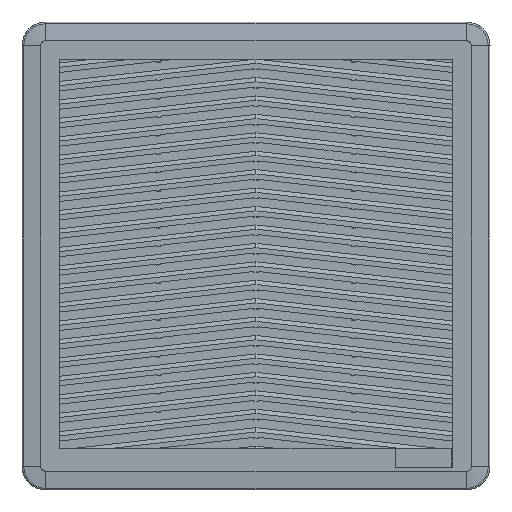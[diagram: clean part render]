
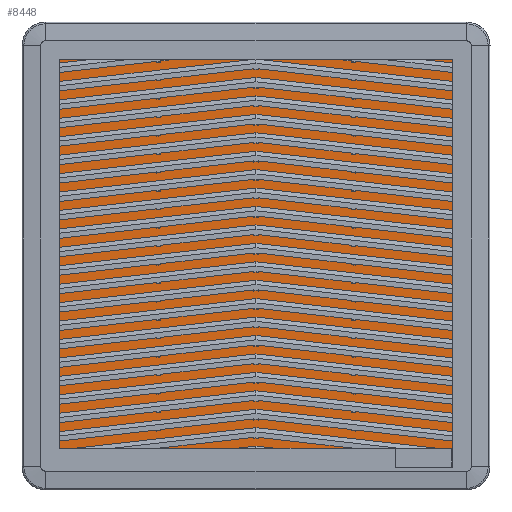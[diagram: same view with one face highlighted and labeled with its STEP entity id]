
A CAD part, front view. The second image highlights one B-rep face of the part: STEP entity #8448.
In plain terms, the highlighted planar face has unit normal (0, -1, 0) as drawn and (0, 0, 1) by its records, which use the part's own axes.
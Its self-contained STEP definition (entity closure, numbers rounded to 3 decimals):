
#560 = VERTEX_POINT ( 'NONE', #10020 ) ;
#562 = CARTESIAN_POINT ( 'NONE',  ( -111.96, -112.04, 6.009 ) ) ;
#1248 = CARTESIAN_POINT ( 'NONE',  ( 112.04, -122.54, 6.009 ) ) ;
#1703 = VECTOR ( 'NONE', #9367, 1000. ) ;
#1813 = FACE_OUTER_BOUND ( 'NONE', #3142, .T. ) ;
#2353 = DIRECTION ( 'NONE',  ( -1., 0., 0. ) ) ;
#2399 = VECTOR ( 'NONE', #38667, 1000. ) ;
#2628 = VERTEX_POINT ( 'NONE', #18523 ) ;
#3142 = EDGE_LOOP ( 'NONE', ( #29320, #32157, #7477, #4887, #25000, #16422, #35902, #35432 ) ) ;
#3151 = EDGE_CURVE ( 'NONE', #560, #5388, #4837, .T. ) ;
#3314 = CARTESIAN_POINT ( 'NONE',  ( -122.46, -112.04, 6.009 ) ) ;
#4056 = CIRCLE ( 'NONE', #9665, 10.5 ) ;
#4317 = VERTEX_POINT ( 'NONE', #18207 ) ;
#4348 = CARTESIAN_POINT ( 'NONE',  ( -111.96, -122.54, 6.009 ) ) ;
#4555 = CARTESIAN_POINT ( 'NONE',  ( 0.04, -0.04, 6.009 ) ) ;
#4837 = CIRCLE ( 'NONE', #37438, 10.5 ) ;
#4887 = ORIENTED_EDGE ( 'NONE', *, *, #36228, .F. ) ;
#5388 = VERTEX_POINT ( 'NONE', #32663 ) ;
#5430 = AXIS2_PLACEMENT_3D ( 'NONE', #13156, #25148, #36350 ) ;
#7477 = ORIENTED_EDGE ( 'NONE', *, *, #27996, .F. ) ;
#8025 = DIRECTION ( 'NONE',  ( 1., 0., 0. ) ) ;
#8387 = DIRECTION ( 'NONE',  ( 0., 0., -1. ) ) ;
#8448 = ADVANCED_FACE ( 'NONE', ( #1813 ), #19652, .T. ) ;
#9367 = DIRECTION ( 'NONE',  ( 0., -1., 0. ) ) ;
#9665 = AXIS2_PLACEMENT_3D ( 'NONE', #562, #24514, #12702 ) ;
#10020 = CARTESIAN_POINT ( 'NONE',  ( 112.04, 124.96, 6.009 ) ) ;
#10368 = AXIS2_PLACEMENT_3D ( 'NONE', #25333, #13735, #10396 ) ;
#10396 = DIRECTION ( 'NONE',  ( 1., 0., 0. ) ) ;
#11339 = CARTESIAN_POINT ( 'NONE',  ( 112.04, 114.46, 6.009 ) ) ;
#12702 = DIRECTION ( 'NONE',  ( 1., 0., 0. ) ) ;
#13156 = CARTESIAN_POINT ( 'NONE',  ( 112.04, -112.04, 6.009 ) ) ;
#13735 = DIRECTION ( 'NONE',  ( 0., 0., -1. ) ) ;
#16027 = CIRCLE ( 'NONE', #10368, 10.5 ) ;
#16422 = ORIENTED_EDGE ( 'NONE', *, *, #36347, .F. ) ;
#16498 = CARTESIAN_POINT ( 'NONE',  ( -122.46, 114.46, 6.009 ) ) ;
#17438 = LINE ( 'NONE', #35139, #28643 ) ;
#17805 = LINE ( 'NONE', #38854, #23488 ) ;
#18207 = CARTESIAN_POINT ( 'NONE',  ( -122.46, -112.04, 6.009 ) ) ;
#18324 = EDGE_CURVE ( 'NONE', #2628, #30917, #22362, .T. ) ;
#18523 = CARTESIAN_POINT ( 'NONE',  ( 122.54, -112.04, 6.009 ) ) ;
#19462 = AXIS2_PLACEMENT_3D ( 'NONE', #4555, #24779, #27903 ) ;
#19652 = PLANE ( 'NONE',  #19462 ) ;
#22362 = CIRCLE ( 'NONE', #5430, 10.5 ) ;
#23354 = DIRECTION ( 'NONE',  ( 1., 0., 0. ) ) ;
#23488 = VECTOR ( 'NONE', #23354, 1000. ) ;
#23773 = VERTEX_POINT ( 'NONE', #34232 ) ;
#24514 = DIRECTION ( 'NONE',  ( 0., 0., -1. ) ) ;
#24779 = DIRECTION ( 'NONE',  ( 0., 0., 1. ) ) ;
#25000 = ORIENTED_EDGE ( 'NONE', *, *, #18324, .F. ) ;
#25148 = DIRECTION ( 'NONE',  ( 0., 0., -1. ) ) ;
#25333 = CARTESIAN_POINT ( 'NONE',  ( -111.96, 114.46, 6.009 ) ) ;
#27793 = EDGE_CURVE ( 'NONE', #23773, #560, #17805, .T. ) ;
#27903 = DIRECTION ( 'NONE',  ( 1., 0., 0. ) ) ;
#27996 = EDGE_CURVE ( 'NONE', #32242, #4317, #4056, .T. ) ;
#28643 = VECTOR ( 'NONE', #2353, 1000. ) ;
#29320 = ORIENTED_EDGE ( 'NONE', *, *, #37139, .F. ) ;
#30016 = LINE ( 'NONE', #36092, #1703 ) ;
#30917 = VERTEX_POINT ( 'NONE', #1248 ) ;
#31552 = EDGE_CURVE ( 'NONE', #4317, #32238, #36310, .T. ) ;
#32157 = ORIENTED_EDGE ( 'NONE', *, *, #31552, .F. ) ;
#32238 = VERTEX_POINT ( 'NONE', #16498 ) ;
#32242 = VERTEX_POINT ( 'NONE', #4348 ) ;
#32663 = CARTESIAN_POINT ( 'NONE',  ( 122.54, 114.46, 6.009 ) ) ;
#34232 = CARTESIAN_POINT ( 'NONE',  ( -111.96, 124.96, 6.009 ) ) ;
#35139 = CARTESIAN_POINT ( 'NONE',  ( 112.04, -122.54, 6.009 ) ) ;
#35432 = ORIENTED_EDGE ( 'NONE', *, *, #27793, .F. ) ;
#35902 = ORIENTED_EDGE ( 'NONE', *, *, #3151, .F. ) ;
#36092 = CARTESIAN_POINT ( 'NONE',  ( 122.54, -112.04, 6.009 ) ) ;
#36228 = EDGE_CURVE ( 'NONE', #30917, #32242, #17438, .T. ) ;
#36310 = LINE ( 'NONE', #3314, #2399 ) ;
#36347 = EDGE_CURVE ( 'NONE', #5388, #2628, #30016, .T. ) ;
#36350 = DIRECTION ( 'NONE',  ( 1., 0., 0. ) ) ;
#37139 = EDGE_CURVE ( 'NONE', #32238, #23773, #16027, .T. ) ;
#37438 = AXIS2_PLACEMENT_3D ( 'NONE', #11339, #8387, #8025 ) ;
#38667 = DIRECTION ( 'NONE',  ( 0., 1., 0. ) ) ;
#38854 = CARTESIAN_POINT ( 'NONE',  ( -111.96, 124.96, 6.009 ) ) ;
